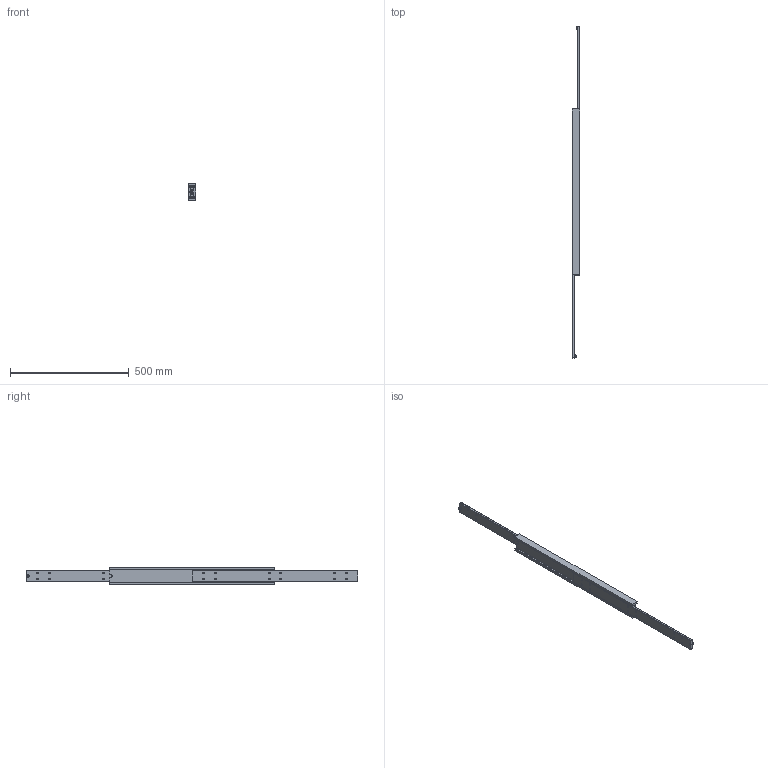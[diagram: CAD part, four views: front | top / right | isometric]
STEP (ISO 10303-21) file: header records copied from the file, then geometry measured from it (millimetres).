
FILE_DESCRIPTION(/* description */ (''),/* implementation_level */ '2;1');
FILE_NAME(/* name */ 'D:\Zeichnungen Schienen Komplett\MX-DTP70\MX-DTP70.070\MX-DTP70.070_ausgefahren.step',/* time_stamp */ '2022-03-03T13:05:02+01:00',/* author */ ('zmile'),/* organization */ (''),/* preprocessor_version */ 'ST-DEVELOPER v16.13',/* originating_system */ 'AutoCAD Mechanical',/* authorisation */ '');
FILE_SCHEMA (('AUTOMOTIVE_DESIGN { 1 0 10303 214 3 1 1 }'));
Length unit declared in the file: millimetre
Products named in the file (1): Product
Bounding box: 32 x 1400 x 70 mm (x, y, z)
Volume: 1225178.3 mm3; surface area: 424389.9 mm2
Topology: 25 solids, 25 shells, 246 faces, 604 edges, 412 vertices
Faces by surface type: plane 104, cylinder 74, sphere 54, bspline 8, torus 6
Full cylindrical faces by diameter (mm): 8 x24, 9 x36, 13 x2
Entity records: 12961 total; most frequent: CARTESIAN_POINT 7521, DIRECTION 1118, ORIENTED_EDGE 888, EDGE_LOOP 456, AXIS2_PLACEMENT_3D 453, EDGE_CURVE 444, VERTEX_POINT 374, FACE_OUTER_BOUND 246
